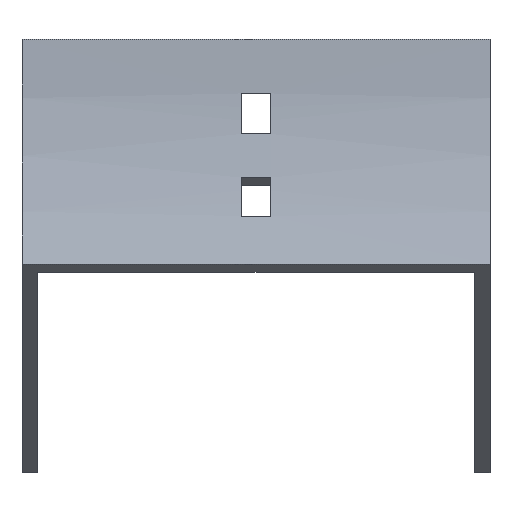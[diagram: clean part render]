
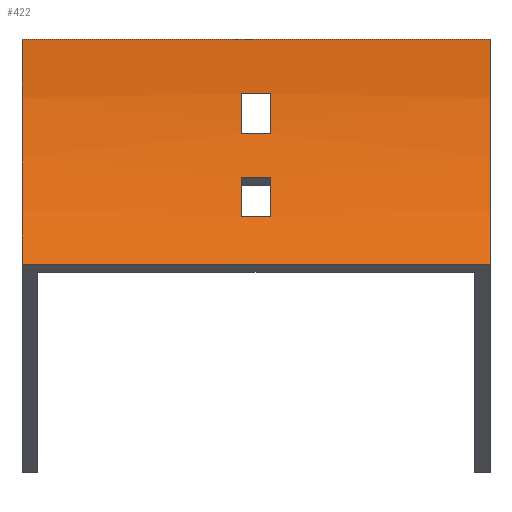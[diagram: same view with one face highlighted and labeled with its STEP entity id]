
A CAD part, front view. The second image highlights one B-rep face of the part: STEP entity #422.
In plain terms, the highlighted cylindrical face has radius 100 mm (diameter 200 mm), a partial arc.
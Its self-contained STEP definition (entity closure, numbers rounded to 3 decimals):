
#7 = EDGE_LOOP ( 'NONE', ( #1572, #1575, #996, #956 ) ) ;
#42 = CARTESIAN_POINT ( 'NONE',  ( -3.25, -8.023, -39.246 ) ) ;
#61 = CARTESIAN_POINT ( 'NONE',  ( -52., 0., 0. ) ) ;
#70 = CARTESIAN_POINT ( 'NONE',  ( 52., -2.23, -21. ) ) ;
#87 = EDGE_LOOP ( 'NONE', ( #773, #525, #121, #903 ) ) ;
#88 = CARTESIAN_POINT ( 'NONE',  ( -3.25, -2.23, -21. ) ) ;
#91 = ORIENTED_EDGE ( 'NONE', *, *, #1554, .F. ) ;
#118 = CARTESIAN_POINT ( 'NONE',  ( 3.25, -100., 0. ) ) ;
#121 = ORIENTED_EDGE ( 'NONE', *, *, #1266, .F. ) ;
#123 = EDGE_CURVE ( 'NONE', #1007, #1148, #168, .T. ) ;
#153 = CIRCLE ( 'NONE', #423, 100. ) ;
#155 = EDGE_CURVE ( 'NONE', #1596, #1522, #1227, .T. ) ;
#168 = LINE ( 'NONE', #1623, #575 ) ;
#184 = DIRECTION ( 'NONE',  ( 0., 0., 1. ) ) ;
#206 = VERTEX_POINT ( 'NONE', #982 ) ;
#210 = LINE ( 'NONE', #733, #1314 ) ;
#264 = CARTESIAN_POINT ( 'NONE',  ( 52., -0.723, -12. ) ) ;
#296 = CARTESIAN_POINT ( 'NONE',  ( 3.25, -4.829, -30.699 ) ) ;
#304 = AXIS2_PLACEMENT_3D ( 'NONE', #557, #1577, #1472 ) ;
#355 = AXIS2_PLACEMENT_3D ( 'NONE', #1043, #486, #1551 ) ;
#358 = AXIS2_PLACEMENT_3D ( 'NONE', #1496, #978, #1270 ) ;
#415 = EDGE_CURVE ( 'NONE', #953, #206, #1443, .T. ) ;
#422 = ADVANCED_FACE ( 'NONE', ( #1499, #857, #718 ), #1237, .F. ) ;
#423 = AXIS2_PLACEMENT_3D ( 'NONE', #858, #1360, #453 ) ;
#452 = DIRECTION ( 'NONE',  ( -1., 0., 0. ) ) ;
#453 = DIRECTION ( 'NONE',  ( 0., 0., 1. ) ) ;
#463 = EDGE_CURVE ( 'NONE', #1405, #1596, #1344, .T. ) ;
#486 = DIRECTION ( 'NONE',  ( -1., 0., 0. ) ) ;
#503 = CARTESIAN_POINT ( 'NONE',  ( 3.25, -100., 0. ) ) ;
#514 = EDGE_LOOP ( 'NONE', ( #1239, #1294, #91, #1593 ) ) ;
#523 = VERTEX_POINT ( 'NONE', #1187 ) ;
#525 = ORIENTED_EDGE ( 'NONE', *, *, #734, .F. ) ;
#528 = DIRECTION ( 'NONE',  ( 0., 0., -1. ) ) ;
#557 = CARTESIAN_POINT ( 'NONE',  ( -3.25, -100., 0. ) ) ;
#564 = LINE ( 'NONE', #970, #1231 ) ;
#567 = EDGE_CURVE ( 'NONE', #1188, #1007, #1306, .T. ) ;
#575 = VECTOR ( 'NONE', #1321, 1000. ) ;
#610 = VERTEX_POINT ( 'NONE', #646 ) ;
#612 = EDGE_CURVE ( 'NONE', #610, #1405, #1178, .T. ) ;
#619 = CARTESIAN_POINT ( 'NONE',  ( -3.25, -4.829, -30.699 ) ) ;
#624 = CARTESIAN_POINT ( 'NONE',  ( 3.25, -8.023, -39.246 ) ) ;
#646 = CARTESIAN_POINT ( 'NONE',  ( -3.25, -0.723, -12. ) ) ;
#647 = CARTESIAN_POINT ( 'NONE',  ( 52., -4.829, -30.699 ) ) ;
#692 = VECTOR ( 'NONE', #1034, 1000. ) ;
#718 = FACE_BOUND ( 'NONE', #87, .T. ) ;
#733 = CARTESIAN_POINT ( 'NONE',  ( 52., -13.397, -50. ) ) ;
#734 = EDGE_CURVE ( 'NONE', #746, #1188, #1319, .T. ) ;
#746 = VERTEX_POINT ( 'NONE', #296 ) ;
#752 = VERTEX_POINT ( 'NONE', #1283 ) ;
#773 = ORIENTED_EDGE ( 'NONE', *, *, #567, .F. ) ;
#831 = EDGE_CURVE ( 'NONE', #1522, #610, #153, .T. ) ;
#834 = CARTESIAN_POINT ( 'NONE',  ( -52., -100., 0. ) ) ;
#857 = FACE_BOUND ( 'NONE', #7, .T. ) ;
#858 = CARTESIAN_POINT ( 'NONE',  ( -3.25, -100., 0. ) ) ;
#874 = AXIS2_PLACEMENT_3D ( 'NONE', #118, #1432, #1146 ) ;
#903 = ORIENTED_EDGE ( 'NONE', *, *, #123, .F. ) ;
#949 = EDGE_CURVE ( 'NONE', #752, #953, #564, .T. ) ;
#953 = VERTEX_POINT ( 'NONE', #61 ) ;
#956 = ORIENTED_EDGE ( 'NONE', *, *, #463, .T. ) ;
#957 = VECTOR ( 'NONE', #1675, 1000. ) ;
#958 = CARTESIAN_POINT ( 'NONE',  ( 3.25, -0.723, -12. ) ) ;
#970 = CARTESIAN_POINT ( 'NONE',  ( 52., 0., 0. ) ) ;
#978 = DIRECTION ( 'NONE',  ( -1., 0., 0. ) ) ;
#982 = CARTESIAN_POINT ( 'NONE',  ( -52., -13.397, -50. ) ) ;
#996 = ORIENTED_EDGE ( 'NONE', *, *, #612, .T. ) ;
#1007 = VERTEX_POINT ( 'NONE', #42 ) ;
#1010 = AXIS2_PLACEMENT_3D ( 'NONE', #834, #452, #184 ) ;
#1034 = DIRECTION ( 'NONE',  ( 1., 0., 0. ) ) ;
#1043 = CARTESIAN_POINT ( 'NONE',  ( 52., -100., 0. ) ) ;
#1105 = CIRCLE ( 'NONE', #358, 100. ) ;
#1135 = DIRECTION ( 'NONE',  ( -1., 0., 0. ) ) ;
#1146 = DIRECTION ( 'NONE',  ( 0., 0., 1. ) ) ;
#1148 = VERTEX_POINT ( 'NONE', #624 ) ;
#1178 = LINE ( 'NONE', #264, #692 ) ;
#1187 = CARTESIAN_POINT ( 'NONE',  ( 52., -13.397, -50. ) ) ;
#1188 = VERTEX_POINT ( 'NONE', #619 ) ;
#1227 = LINE ( 'NONE', #70, #1521 ) ;
#1231 = VECTOR ( 'NONE', #1477, 1000. ) ;
#1237 = CYLINDRICAL_SURFACE ( 'NONE', #355, 100. ) ;
#1239 = ORIENTED_EDGE ( 'NONE', *, *, #415, .T. ) ;
#1266 = EDGE_CURVE ( 'NONE', #1148, #746, #1642, .T. ) ;
#1270 = DIRECTION ( 'NONE',  ( 0., 0., 1. ) ) ;
#1283 = CARTESIAN_POINT ( 'NONE',  ( 52., 0., 0. ) ) ;
#1294 = ORIENTED_EDGE ( 'NONE', *, *, #1571, .F. ) ;
#1306 = CIRCLE ( 'NONE', #304, 100. ) ;
#1314 = VECTOR ( 'NONE', #1135, 1000. ) ;
#1319 = LINE ( 'NONE', #647, #957 ) ;
#1321 = DIRECTION ( 'NONE',  ( 1., 0., 0. ) ) ;
#1344 = CIRCLE ( 'NONE', #1558, 100. ) ;
#1360 = DIRECTION ( 'NONE',  ( 1., 0., 0. ) ) ;
#1405 = VERTEX_POINT ( 'NONE', #958 ) ;
#1432 = DIRECTION ( 'NONE',  ( 1., 0., 0. ) ) ;
#1443 = CIRCLE ( 'NONE', #1010, 100. ) ;
#1472 = DIRECTION ( 'NONE',  ( 0., 0., -1. ) ) ;
#1477 = DIRECTION ( 'NONE',  ( -1., 0., 0. ) ) ;
#1496 = CARTESIAN_POINT ( 'NONE',  ( 52., -100., 0. ) ) ;
#1499 = FACE_OUTER_BOUND ( 'NONE', #514, .T. ) ;
#1521 = VECTOR ( 'NONE', #1637, 1000. ) ;
#1522 = VERTEX_POINT ( 'NONE', #88 ) ;
#1551 = DIRECTION ( 'NONE',  ( 0., 0., 1. ) ) ;
#1554 = EDGE_CURVE ( 'NONE', #752, #523, #1105, .T. ) ;
#1558 = AXIS2_PLACEMENT_3D ( 'NONE', #503, #1597, #528 ) ;
#1571 = EDGE_CURVE ( 'NONE', #523, #206, #210, .T. ) ;
#1572 = ORIENTED_EDGE ( 'NONE', *, *, #155, .T. ) ;
#1575 = ORIENTED_EDGE ( 'NONE', *, *, #831, .T. ) ;
#1577 = DIRECTION ( 'NONE',  ( -1., 0., 0. ) ) ;
#1593 = ORIENTED_EDGE ( 'NONE', *, *, #949, .T. ) ;
#1596 = VERTEX_POINT ( 'NONE', #1632 ) ;
#1597 = DIRECTION ( 'NONE',  ( -1., 0., 0. ) ) ;
#1623 = CARTESIAN_POINT ( 'NONE',  ( 52., -8.023, -39.246 ) ) ;
#1632 = CARTESIAN_POINT ( 'NONE',  ( 3.25, -2.23, -21. ) ) ;
#1637 = DIRECTION ( 'NONE',  ( -1., 0., 0. ) ) ;
#1642 = CIRCLE ( 'NONE', #874, 100. ) ;
#1675 = DIRECTION ( 'NONE',  ( -1., 0., 0. ) ) ;
